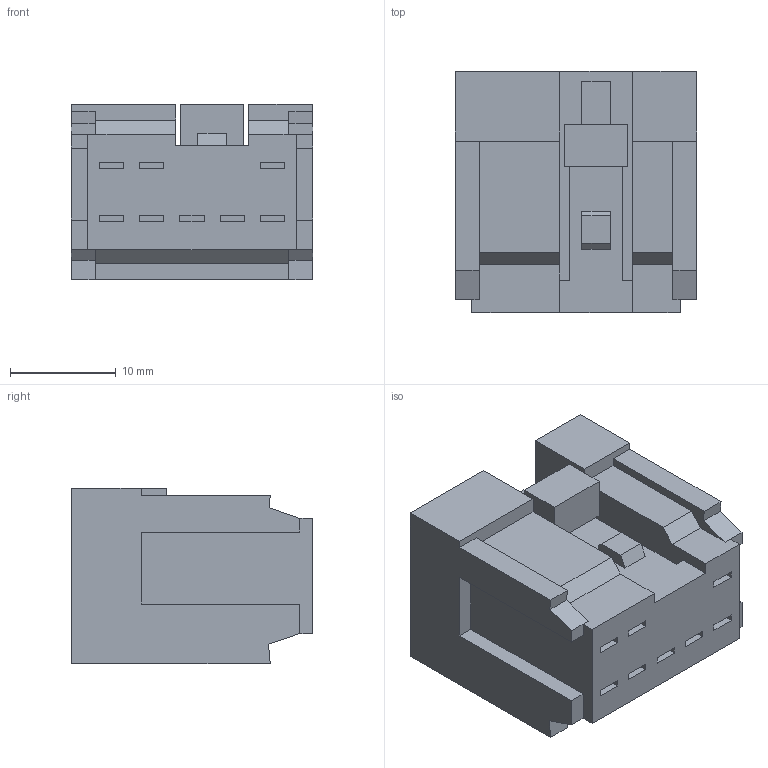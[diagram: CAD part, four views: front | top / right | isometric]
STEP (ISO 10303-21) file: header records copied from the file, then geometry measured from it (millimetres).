
FILE_DESCRIPTION(('CATIA V5 STEP','CAx-IF Rec.Pracs.--- Model Styling and Organization---1.4--- 2014-01-23'),'2;1');
FILE_NAME('\\fss02.ad.sws.co.jp\fs100016\第3設計部\共有\コネクタ第1Gr\【91】一時保管\★カタログ用参考資料\簡易３D\stp_送付用\6098-6949.stp','2024-10-07T01:14:14+00:00',('none'),('none'),'CATIA Version 5-6 Release 2018 SP4 HF21','CATIA V5 STEP AP214','none');
FILE_SCHEMA(('AUTOMOTIVE_DESIGN { 1 0 10303 214 1 1 1 1 }'));
Length unit declared in the file: millimetre
Products named in the file (1): 6098-6949
Bounding box: 22.8 x 22.8 x 16.6 mm (x, y, z)
Volume: 6298.4 mm3; surface area: 3308.2 mm2
Topology: 1 solids, 1 shells, 153 faces, 399 edges, 264 vertices
Faces by surface type: plane 153
Entity records: 4216 total; most frequent: ORIENTED_EDGE 798, CARTESIAN_POINT 738, DIRECTION 547, VECTOR 399, EDGE_CURVE 399, LINE 399, VERTEX_POINT 264, EDGE_LOOP 171
